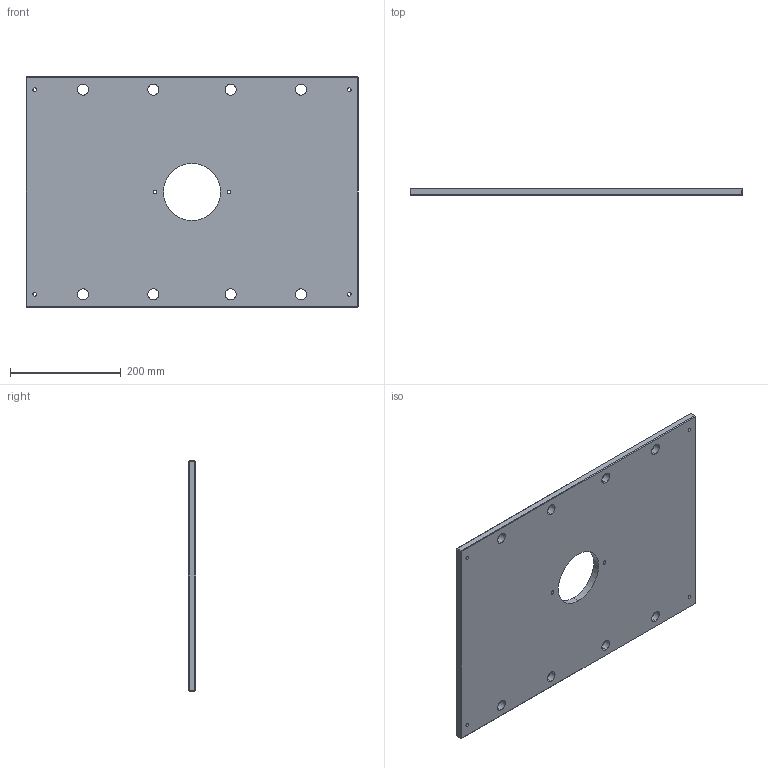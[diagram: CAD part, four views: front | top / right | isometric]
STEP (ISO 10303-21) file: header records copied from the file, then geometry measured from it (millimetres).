
FILE_DESCRIPTION (( 'STEP AP214' ), '1' );
FILE_NAME ('ME-0619-CH-1724.STEP', '2020-02-13T09:14:12', ( '' ), ( '' ), 'SwSTEP 2.0', 'SolidWorks 2018', '' );
FILE_SCHEMA (( 'AUTOMOTIVE_DESIGN' ));
Length unit declared in the file: inch
Products named in the file (1): ME-0619-CH-1724
Bounding box: 600.08 x 12.7 x 415.93 mm (x, y, z)
Volume: 3024789.3 mm3; surface area: 511735.1 mm2
Topology: 1 solids, 1 shells, 68 faces, 162 edges, 96 vertices
Faces by surface type: cylinder 30, plane 26, cone 12
Entity records: 2050 total; most frequent: DIRECTION 372, CARTESIAN_POINT 327, ORIENTED_EDGE 324, EDGE_CURVE 162, AXIS2_PLACEMENT_3D 141, EDGE_LOOP 98, VERTEX_POINT 96, LINE 90
